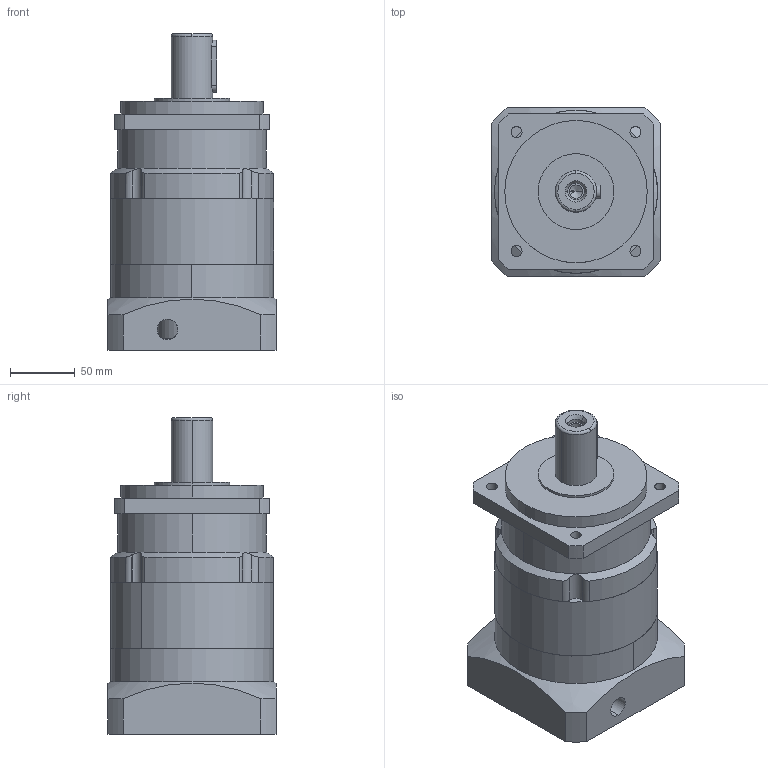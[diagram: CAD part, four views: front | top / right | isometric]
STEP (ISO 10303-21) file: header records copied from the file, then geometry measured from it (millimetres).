
FILE_DESCRIPTION (( 'STEP AP203' ), '1' );
FILE_NAME ('PLM120-L2-22-110-145.STEP', '2022-07-05T06:09:20', ( 'Windows User' ), ( 'P R C' ), 'SwSTEP 2.0', 'SolidWorks 2016', '' );
FILE_SCHEMA (( 'CONFIG_CONTROL_DESIGN' ));
Length unit declared in the file: millimetre
Products named in the file (8): 邧埴瑩 10x8x40; PLM120-L2-22-110-145; PLM120-本体齿圈; PLM120-薊粣ん_LZ03; PLM120-帣釱; 囀鞠褒蹟佪-M8℅25; 粣創-6009 45x75x16; PLM120-二级齿圈
Assembly tree (7 placements, depth 2):
  PLM120-L2-22-110-145
    PLM120-本体齿圈
    PLM120-薊粣ん_LZ03
    PLM120-帣釱
    囀鞠褒蹟佪-M8℅25
    粣創-6009 45x75x16
    PLM120-二级齿圈
    邧埴瑩 10x8x40
Bounding box: 130 x 130 x 244.5 mm (x, y, z)
Volume: 2273746.6 mm3; surface area: 241722.4 mm2
Topology: 7 solids, 7 shells, 957 faces, 2651 edges, 1749 vertices
Faces by surface type: plane 527, cylinder 147, bspline 132, sphere 85, torus 50, cone 16
Entity records: 41027 total; most frequent: CARTESIAN_POINT 16970, ORIENTED_EDGE 5204, DIRECTION 4268, EDGE_CURVE 2602, VERTEX_POINT 1723, AXIS2_PLACEMENT_3D 1483, VECTOR 1302, LINE 1302
